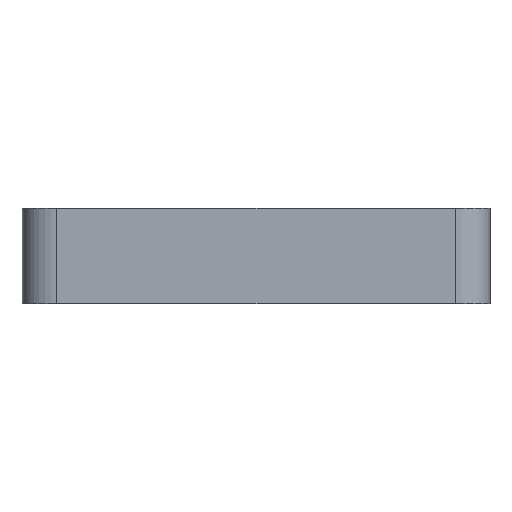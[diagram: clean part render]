
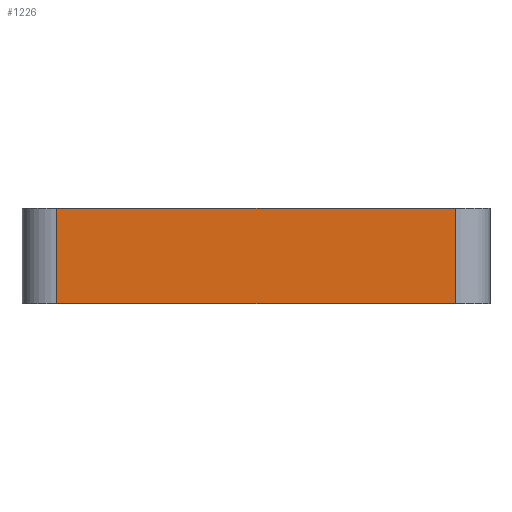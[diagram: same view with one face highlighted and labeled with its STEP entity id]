
A CAD part, left-side view. The second image highlights one B-rep face of the part: STEP entity #1226.
In plain terms, the highlighted planar face has unit normal (-1, 0, 0).
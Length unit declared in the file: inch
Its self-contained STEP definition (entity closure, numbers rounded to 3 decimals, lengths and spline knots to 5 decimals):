
#15 = VERTEX_POINT ( 'NONE', #1101 ) ;
#55 = VERTEX_POINT ( 'NONE', #1099 ) ;
#83 = FACE_OUTER_BOUND ( 'NONE', #395, .T. ) ;
#144 = VECTOR ( 'NONE', #796, 39.37008 ) ;
#155 = LINE ( 'NONE', #794, #160 ) ;
#160 = VECTOR ( 'NONE', #813, 39.37008 ) ;
#167 = LINE ( 'NONE', #741, #144 ) ;
#189 = VECTOR ( 'NONE', #838, 39.37008 ) ;
#206 = LINE ( 'NONE', #826, #189 ) ;
#263 = VECTOR ( 'NONE', #929, 39.37008 ) ;
#265 = LINE ( 'NONE', #922, #263 ) ;
#395 = EDGE_LOOP ( 'NONE', ( #495, #451, #492, #460 ) ) ;
#451 = ORIENTED_EDGE ( 'NONE', *, *, #1273, .F. ) ;
#460 = ORIENTED_EDGE ( 'NONE', *, *, #1261, .T. ) ;
#492 = ORIENTED_EDGE ( 'NONE', *, *, #1405, .F. ) ;
#495 = ORIENTED_EDGE ( 'NONE', *, *, #1253, .T. ) ;
#646 = VERTEX_POINT ( 'NONE', #1178 ) ;
#649 = VERTEX_POINT ( 'NONE', #1159 ) ;
#725 = PLANE ( 'NONE',  #1316 ) ;
#726 = CARTESIAN_POINT ( 'NONE',  ( 0., 0.125, 0.345 ) ) ;
#728 = DIRECTION ( 'NONE',  ( 1., 0., 0. ) ) ;
#730 = DIRECTION ( 'NONE',  ( 0., 0., -1. ) ) ;
#741 = CARTESIAN_POINT ( 'NONE',  ( 0., 0.125, 0. ) ) ;
#794 = CARTESIAN_POINT ( 'NONE',  ( 0., 1.565, 0.345 ) ) ;
#796 = DIRECTION ( 'NONE',  ( 0., -1., 0. ) ) ;
#813 = DIRECTION ( 'NONE',  ( 0., 0., -1. ) ) ;
#826 = CARTESIAN_POINT ( 'NONE',  ( 0., 0.125, 0.345 ) ) ;
#838 = DIRECTION ( 'NONE',  ( 0., 0., -1. ) ) ;
#922 = CARTESIAN_POINT ( 'NONE',  ( 0., 0.125, 0.345 ) ) ;
#929 = DIRECTION ( 'NONE',  ( 0., -1., 0. ) ) ;
#1099 = CARTESIAN_POINT ( 'NONE',  ( 0., 0.125, 0. ) ) ;
#1101 = CARTESIAN_POINT ( 'NONE',  ( 0., 1.565, 0. ) ) ;
#1159 = CARTESIAN_POINT ( 'NONE',  ( 0., 1.565, 0.345 ) ) ;
#1178 = CARTESIAN_POINT ( 'NONE',  ( 0., 0.125, 0.345 ) ) ;
#1226 = ADVANCED_FACE ( 'NONE', ( #83 ), #725, .F. ) ;
#1253 = EDGE_CURVE ( 'NONE', #15, #55, #167, .T. ) ;
#1261 = EDGE_CURVE ( 'NONE', #649, #15, #155, .T. ) ;
#1273 = EDGE_CURVE ( 'NONE', #646, #55, #206, .T. ) ;
#1316 = AXIS2_PLACEMENT_3D ( 'NONE', #726, #728, #730 ) ;
#1405 = EDGE_CURVE ( 'NONE', #649, #646, #265, .T. ) ;
